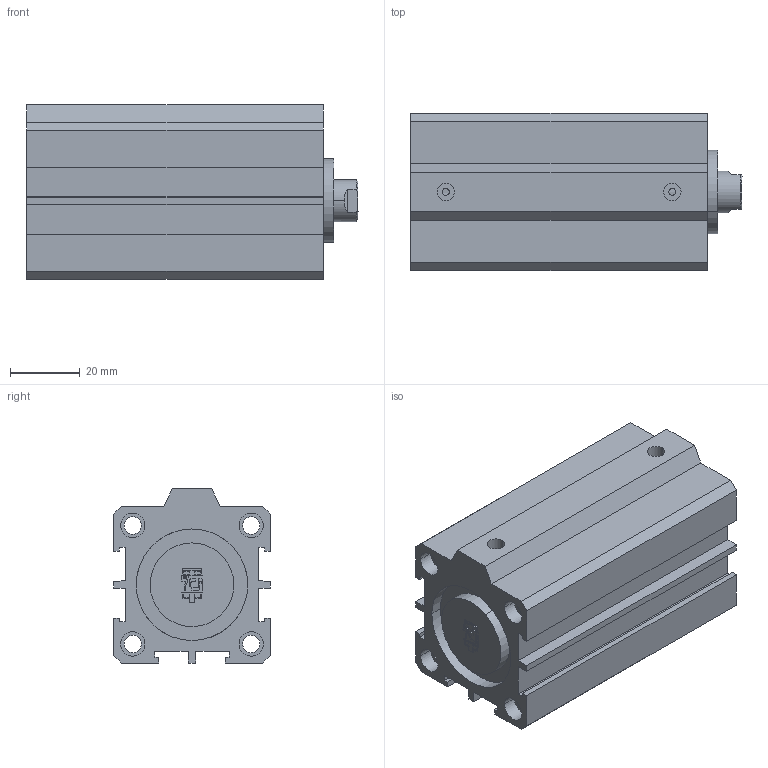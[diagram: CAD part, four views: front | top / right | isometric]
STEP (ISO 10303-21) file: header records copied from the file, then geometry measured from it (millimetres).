
FILE_DESCRIPTION(('CATIA V5 STEP Exchange'),'2;1');
FILE_NAME('D:\PDA\PDA-STP\PDA 32-12\PDA 32-12-50.stp','2016-02-02T10:41:53+00:00',('none'),('none'),'Version 5-6 Release 2012','CATIA V5 STEP AP203','none');
FILE_SCHEMA(('CONFIG_CONTROL_DESIGN'));
Length unit declared in the file: millimetre
Products named in the file (1): PDA 32-12-50-00
Assembly tree (2 placements, depth 2):
  PDA 32-12-50-00
    #58
    #6193
Bounding box: 95.25 x 45 x 50 mm (x, y, z)
Volume: 110985.8 mm3; surface area: 44484.4 mm2
Topology: 2 solids, 2 shells, 233 faces, 602 edges, 404 vertices
Faces by surface type: plane 163, cylinder 68, cone 2
Entity records: 6699 total; most frequent: CARTESIAN_POINT 1225, ORIENTED_EDGE 1204, DIRECTION 900, EDGE_CURVE 602, VECTOR 444, LINE 444, VERTEX_POINT 404, AXIS2_PLACEMENT_3D 301
